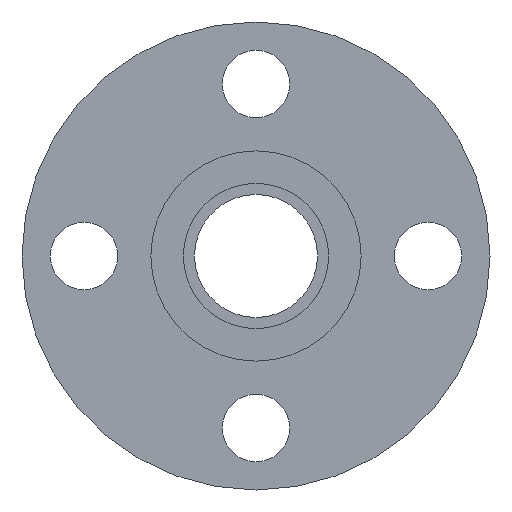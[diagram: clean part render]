
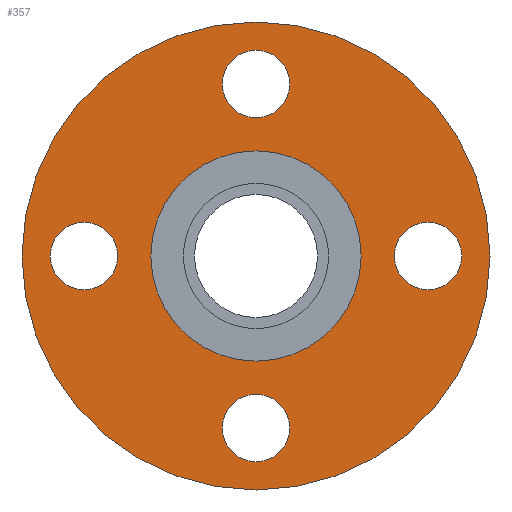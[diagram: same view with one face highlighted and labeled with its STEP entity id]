
A CAD part, left-side view. The second image highlights one B-rep face of the part: STEP entity #357.
In plain terms, the highlighted planar face has unit normal (-1, 0, 0).
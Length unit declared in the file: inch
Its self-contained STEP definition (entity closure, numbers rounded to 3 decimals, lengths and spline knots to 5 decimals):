
#14=FACE_BOUND('',#60,.T.);
#15=FACE_BOUND('',#61,.T.);
#16=FACE_BOUND('',#62,.T.);
#17=FACE_BOUND('',#63,.T.);
#18=FACE_BOUND('',#64,.T.);
#29=PLANE('',#407);
#41=FACE_OUTER_BOUND('',#59,.T.);
#59=EDGE_LOOP('',(#250,#251));
#60=EDGE_LOOP('',(#252));
#61=EDGE_LOOP('',(#253));
#62=EDGE_LOOP('',(#254));
#63=EDGE_LOOP('',(#255));
#64=EDGE_LOOP('',(#256,#257));
#110=CIRCLE('',#392,0.44);
#112=CIRCLE('',#395,0.44);
#114=CIRCLE('',#398,0.44);
#116=CIRCLE('',#401,0.44);
#117=CIRCLE('',#403,3.06);
#118=CIRCLE('',#404,3.06);
#121=CIRCLE('',#408,1.375);
#122=CIRCLE('',#409,1.375);
#146=VERTEX_POINT('',#569);
#148=VERTEX_POINT('',#575);
#150=VERTEX_POINT('',#581);
#152=VERTEX_POINT('',#587);
#153=VERTEX_POINT('',#591);
#154=VERTEX_POINT('',#592);
#157=VERTEX_POINT('',#601);
#158=VERTEX_POINT('',#602);
#183=EDGE_CURVE('',#146,#146,#110,.T.);
#186=EDGE_CURVE('',#148,#148,#112,.T.);
#189=EDGE_CURVE('',#150,#150,#114,.T.);
#192=EDGE_CURVE('',#152,#152,#116,.T.);
#193=EDGE_CURVE('',#153,#154,#117,.T.);
#194=EDGE_CURVE('',#154,#153,#118,.T.);
#198=EDGE_CURVE('',#157,#158,#121,.T.);
#199=EDGE_CURVE('',#158,#157,#122,.T.);
#250=ORIENTED_EDGE('',*,*,#193,.T.);
#251=ORIENTED_EDGE('',*,*,#194,.T.);
#252=ORIENTED_EDGE('',*,*,#183,.T.);
#253=ORIENTED_EDGE('',*,*,#186,.T.);
#254=ORIENTED_EDGE('',*,*,#189,.T.);
#255=ORIENTED_EDGE('',*,*,#192,.T.);
#256=ORIENTED_EDGE('',*,*,#198,.F.);
#257=ORIENTED_EDGE('',*,*,#199,.F.);
#357=ADVANCED_FACE('',(#41,#14,#15,#16,#17,#18),#29,.T.);
#392=AXIS2_PLACEMENT_3D('',#571,#451,#452);
#395=AXIS2_PLACEMENT_3D('',#577,#458,#459);
#398=AXIS2_PLACEMENT_3D('',#583,#465,#466);
#401=AXIS2_PLACEMENT_3D('',#589,#472,#473);
#403=AXIS2_PLACEMENT_3D('',#593,#476,#477);
#404=AXIS2_PLACEMENT_3D('',#594,#478,#479);
#407=AXIS2_PLACEMENT_3D('',#600,#485,#486);
#408=AXIS2_PLACEMENT_3D('',#603,#487,#488);
#409=AXIS2_PLACEMENT_3D('',#604,#489,#490);
#451=DIRECTION('center_axis',(1.,0.,0.));
#452=DIRECTION('ref_axis',(0.,-1.,0.));
#458=DIRECTION('center_axis',(1.,0.,0.));
#459=DIRECTION('ref_axis',(0.,0.,-1.));
#465=DIRECTION('center_axis',(1.,0.,0.));
#466=DIRECTION('ref_axis',(0.,1.,0.));
#472=DIRECTION('center_axis',(1.,0.,0.));
#473=DIRECTION('ref_axis',(0.,0.,1.));
#476=DIRECTION('center_axis',(-1.,0.,0.));
#477=DIRECTION('ref_axis',(0.,0.,1.));
#478=DIRECTION('center_axis',(-1.,0.,0.));
#479=DIRECTION('ref_axis',(0.,0.,1.));
#485=DIRECTION('center_axis',(-1.,0.,0.));
#486=DIRECTION('ref_axis',(0.,0.,1.));
#487=DIRECTION('center_axis',(-1.,0.,0.));
#488=DIRECTION('ref_axis',(0.,0.,1.));
#489=DIRECTION('center_axis',(-1.,0.,0.));
#490=DIRECTION('ref_axis',(0.,0.,1.));
#569=CARTESIAN_POINT('',(-0.81,2.69,0.));
#571=CARTESIAN_POINT('Origin',(-0.81,2.25,0.));
#575=CARTESIAN_POINT('',(-0.81,0.,2.69));
#577=CARTESIAN_POINT('Origin',(-0.81,0.,
2.25));
#581=CARTESIAN_POINT('',(-0.81,-2.69,0.));
#583=CARTESIAN_POINT('Origin',(-0.81,-2.25,0.));
#587=CARTESIAN_POINT('',(-0.81,0.,-2.69));
#589=CARTESIAN_POINT('Origin',(-0.81,0.,
-2.25));
#591=CARTESIAN_POINT('',(-0.81,0.,3.06));
#592=CARTESIAN_POINT('',(-0.81,0.,-3.06));
#593=CARTESIAN_POINT('Origin',(-0.81,0.,0.));
#594=CARTESIAN_POINT('Origin',(-0.81,0.,0.));
#600=CARTESIAN_POINT('Origin',(-0.81,0.,2.2175));
#601=CARTESIAN_POINT('',(-0.81,0.,1.375));
#602=CARTESIAN_POINT('',(-0.81,0.,-1.375));
#603=CARTESIAN_POINT('Origin',(-0.81,0.,0.));
#604=CARTESIAN_POINT('Origin',(-0.81,0.,0.));
